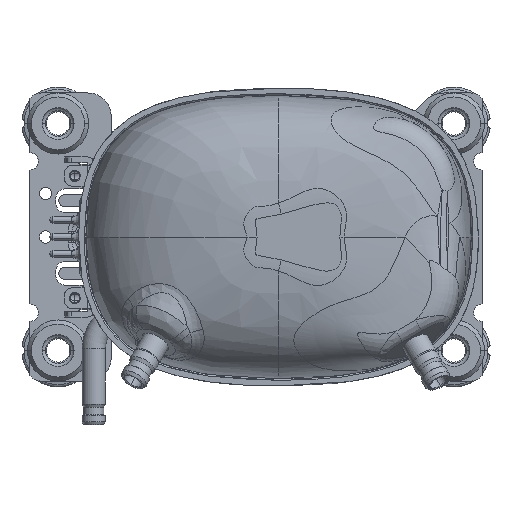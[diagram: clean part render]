
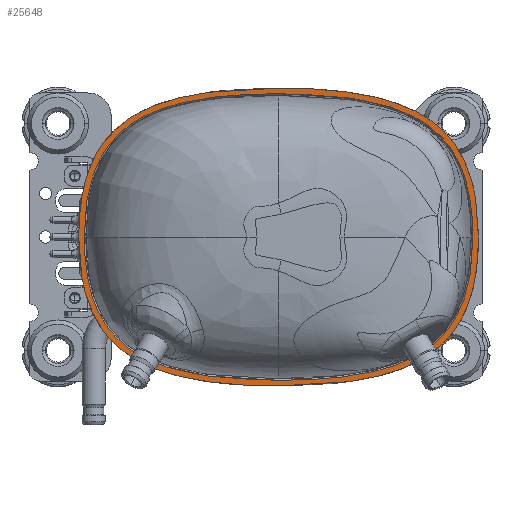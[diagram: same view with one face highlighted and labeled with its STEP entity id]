
A CAD part, front view. The second image highlights one B-rep face of the part: STEP entity #25648.
In plain terms, the highlighted planar face has unit normal (0, -1, 0) as drawn and (0, 1, 0) by its records, which use the part's own axes.
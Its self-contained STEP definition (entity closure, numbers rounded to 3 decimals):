
#6154=CARTESIAN_POINT('',(-68.65,7.5,0.));
#6155=CARTESIAN_POINT('',(-68.65,7.5,6.519));
#6156=CARTESIAN_POINT('',(-67.487,7.5,18.507));
#6157=CARTESIAN_POINT('',(-61.211,7.5,32.736));
#6158=CARTESIAN_POINT('',(-50.191,7.5,42.476));
#6159=CARTESIAN_POINT('',(-35.739,7.5,48.042));
#6160=CARTESIAN_POINT('',(-18.856,7.5,50.7));
#6161=CARTESIAN_POINT('',(-6.424,7.5,51.15));
#6162=CARTESIAN_POINT('',(0.,7.5,51.15));
#6164=CARTESIAN_POINT('',(0.,7.5,-51.15));
#6165=CARTESIAN_POINT('',(-6.424,7.5,-51.15));
#6166=CARTESIAN_POINT('',(-18.856,7.5,-50.7));
#6167=CARTESIAN_POINT('',(-35.739,7.5,-48.042));
#6168=CARTESIAN_POINT('',(-50.191,7.5,-42.476));
#6169=CARTESIAN_POINT('',(-61.211,7.5,-32.736));
#6170=CARTESIAN_POINT('',(-67.487,7.5,-18.507));
#6171=CARTESIAN_POINT('',(-68.65,7.5,-6.519));
#6172=CARTESIAN_POINT('',(-68.65,7.5,0.));
#6174=CARTESIAN_POINT('',(68.65,7.5,0.));
#6175=CARTESIAN_POINT('',(68.65,7.5,-6.519));
#6176=CARTESIAN_POINT('',(67.487,7.5,-18.507));
#6177=CARTESIAN_POINT('',(61.211,7.5,-32.736));
#6178=CARTESIAN_POINT('',(50.191,7.5,-42.476));
#6179=CARTESIAN_POINT('',(35.739,7.5,-48.042));
#6180=CARTESIAN_POINT('',(18.856,7.5,-50.7));
#6181=CARTESIAN_POINT('',(6.424,7.5,-51.15));
#6182=CARTESIAN_POINT('',(0.,7.5,-51.15));
#6184=CARTESIAN_POINT('',(0.,7.5,51.15));
#6185=CARTESIAN_POINT('',(6.424,7.5,51.15));
#6186=CARTESIAN_POINT('',(18.856,7.5,50.7));
#6187=CARTESIAN_POINT('',(35.739,7.5,48.042));
#6188=CARTESIAN_POINT('',(50.191,7.5,42.476));
#6189=CARTESIAN_POINT('',(61.211,7.5,32.736));
#6190=CARTESIAN_POINT('',(67.487,7.5,18.507));
#6191=CARTESIAN_POINT('',(68.65,7.5,6.519));
#6192=CARTESIAN_POINT('',(68.65,7.5,0.));
#6194=CARTESIAN_POINT('',(0.,7.5,
-49.229));
#6195=CARTESIAN_POINT('',(3.943,7.5,-49.229));
#6196=CARTESIAN_POINT('',(11.443,7.5,-49.055));
#6197=CARTESIAN_POINT('',(21.471,7.5,-48.25));
#6198=CARTESIAN_POINT('',(30.365,7.5,-46.873));
#6199=CARTESIAN_POINT('',(38.115,7.5,-44.91));
#6200=CARTESIAN_POINT('',(44.737,7.5,-42.37));
#6201=CARTESIAN_POINT('',(50.185,7.5,-39.333));
#6202=CARTESIAN_POINT('',(54.559,7.5,-35.91));
#6203=CARTESIAN_POINT('',(58.144,7.5,-32.056));
#6204=CARTESIAN_POINT('',(61.124,7.5,-27.569));
#6205=CARTESIAN_POINT('',(63.564,7.5,-22.215));
#6206=CARTESIAN_POINT('',(65.392,7.5,-15.839));
#6207=CARTESIAN_POINT('',(66.489,7.5,-8.447));
#6208=CARTESIAN_POINT('',(66.731,7.5,-2.889));
#6209=CARTESIAN_POINT('',(66.729,7.5,0.));
#6211=CARTESIAN_POINT('',(-66.729,7.5,
0.));
#6212=CARTESIAN_POINT('',(-66.731,7.5,
-2.911));
#6213=CARTESIAN_POINT('',(-66.486,7.5,
-8.485));
#6214=CARTESIAN_POINT('',(-65.382,7.5,
-15.885));
#6215=CARTESIAN_POINT('',(-63.551,7.5,
-22.251));
#6216=CARTESIAN_POINT('',(-61.109,7.5,
-27.596));
#6217=CARTESIAN_POINT('',(-58.126,7.5,
-32.078));
#6218=CARTESIAN_POINT('',(-54.538,7.5,
-35.93));
#6219=CARTESIAN_POINT('',(-50.16,7.5,
-39.35));
#6220=CARTESIAN_POINT('',(-44.705,7.5,
-42.385));
#6221=CARTESIAN_POINT('',(-38.076,7.5,
-44.922));
#6222=CARTESIAN_POINT('',(-30.32,7.5,
-46.882));
#6223=CARTESIAN_POINT('',(-21.418,7.5,
-48.256));
#6224=CARTESIAN_POINT('',(-11.402,7.5,
-49.056));
#6225=CARTESIAN_POINT('',(-3.921,7.5,
-49.229));
#6226=CARTESIAN_POINT('',(0.,7.5,
-49.229));
#6228=CARTESIAN_POINT('',(0.,7.5,
49.229));
#6229=CARTESIAN_POINT('',(-3.943,7.5,49.229));
#6230=CARTESIAN_POINT('',(-11.443,7.5,49.055));
#6231=CARTESIAN_POINT('',(-21.471,7.5,48.25));
#6232=CARTESIAN_POINT('',(-30.365,7.5,46.873));
#6233=CARTESIAN_POINT('',(-38.115,7.5,44.91));
#6234=CARTESIAN_POINT('',(-44.737,7.5,42.37));
#6235=CARTESIAN_POINT('',(-50.185,7.5,39.333));
#6236=CARTESIAN_POINT('',(-54.559,7.5,35.91));
#6237=CARTESIAN_POINT('',(-58.144,7.5,32.056));
#6238=CARTESIAN_POINT('',(-61.124,7.5,27.569));
#6239=CARTESIAN_POINT('',(-63.564,7.5,22.215));
#6240=CARTESIAN_POINT('',(-65.392,7.5,15.839));
#6241=CARTESIAN_POINT('',(-66.489,7.5,8.447));
#6242=CARTESIAN_POINT('',(-66.731,7.5,2.889));
#6243=CARTESIAN_POINT('',(-66.729,7.5,
0.));
#6245=CARTESIAN_POINT('',(66.729,7.5,0.));
#6246=CARTESIAN_POINT('',(66.731,7.5,2.911));
#6247=CARTESIAN_POINT('',(66.486,7.5,8.485));
#6248=CARTESIAN_POINT('',(65.382,7.5,15.885));
#6249=CARTESIAN_POINT('',(63.551,7.5,22.251));
#6250=CARTESIAN_POINT('',(61.109,7.5,27.596));
#6251=CARTESIAN_POINT('',(58.126,7.5,32.078));
#6252=CARTESIAN_POINT('',(54.538,7.5,35.93));
#6253=CARTESIAN_POINT('',(50.16,7.5,39.35));
#6254=CARTESIAN_POINT('',(44.705,7.5,42.385));
#6255=CARTESIAN_POINT('',(38.076,7.5,44.922));
#6256=CARTESIAN_POINT('',(30.32,7.5,46.882));
#6257=CARTESIAN_POINT('',(21.418,7.5,48.256));
#6258=CARTESIAN_POINT('',(11.402,7.5,49.056));
#6259=CARTESIAN_POINT('',(3.921,7.5,49.229));
#6260=CARTESIAN_POINT('',(0.,7.5,
49.229));
#9975=VERTEX_POINT('',#6154);
#9976=VERTEX_POINT('',#6162);
#9977=VERTEX_POINT('',#6192);
#9978=VERTEX_POINT('',#6182);
#10007=VERTEX_POINT('',#6194);
#10008=VERTEX_POINT('',#6209);
#10011=VERTEX_POINT('',#6260);
#10013=VERTEX_POINT('',#6243);
#25628=CARTESIAN_POINT('',(0.,7.5,0.));
#25629=DIRECTION('',(0.,1.,0.));
#25630=DIRECTION('',(-1.,0.,0.));
#25631=AXIS2_PLACEMENT_3D('',#25628,#25629,#25630);
#25632=PLANE('',#25631);
#25633=ORIENTED_EDGE('',*,*,#17061,.F.);
#25634=ORIENTED_EDGE('',*,*,#17538,.F.);
#25635=ORIENTED_EDGE('',*,*,#17560,.F.);
#25636=ORIENTED_EDGE('',*,*,#17033,.F.);
#25637=EDGE_LOOP('',(#25633,#25634,#25635,#25636));
#25638=FACE_OUTER_BOUND('',#25637,.F.);
#25640=ORIENTED_EDGE('',*,*,#25639,.F.);
#25642=ORIENTED_EDGE('',*,*,#25641,.F.);
#25643=ORIENTED_EDGE('',*,*,#25618,.F.);
#25645=ORIENTED_EDGE('',*,*,#25644,.F.);
#25646=EDGE_LOOP('',(#25640,#25642,#25643,#25645));
#25647=FACE_BOUND('',#25646,.F.);
#25648=ADVANCED_FACE('',(#25638,#25647),#25632,.T.);
#6163=B_SPLINE_CURVE_WITH_KNOTS('',3,(#6154,#6155,#6156,#6157,#6158,#6159,#6160,
#6161,#6162),.UNSPECIFIED.,.F.,.F.,(4,1,1,1,1,1,4),(0.,0.167,
0.333,0.5,0.667,0.833,1.),
.UNSPECIFIED.);
#6173=B_SPLINE_CURVE_WITH_KNOTS('',3,(#6164,#6165,#6166,#6167,#6168,#6169,#6170,
#6171,#6172),.UNSPECIFIED.,.F.,.F.,(4,1,1,1,1,1,4),(0.,0.167,
0.333,0.5,0.667,0.833,1.),
.UNSPECIFIED.);
#6183=B_SPLINE_CURVE_WITH_KNOTS('',3,(#6174,#6175,#6176,#6177,#6178,#6179,#6180,
#6181,#6182),.UNSPECIFIED.,.F.,.F.,(4,1,1,1,1,1,4),(0.,0.167,
0.333,0.5,0.667,0.833,1.),
.UNSPECIFIED.);
#6193=B_SPLINE_CURVE_WITH_KNOTS('',3,(#6184,#6185,#6186,#6187,#6188,#6189,#6190,
#6191,#6192),.UNSPECIFIED.,.F.,.F.,(4,1,1,1,1,1,4),(0.,0.167,
0.333,0.5,0.667,0.833,1.),
.UNSPECIFIED.);
#6210=B_SPLINE_CURVE_WITH_KNOTS('',3,(#6194,#6195,#6196,#6197,#6198,#6199,#6200,
#6201,#6202,#6203,#6204,#6205,#6206,#6207,#6208,#6209),.UNSPECIFIED.,.F.,.F.,(4,
1,1,1,1,1,1,1,1,1,1,1,1,4),(0.,0.076,0.153,
0.23,0.308,0.385,0.462,
0.539,0.616,0.693,0.771,
0.848,0.925,1.),.UNSPECIFIED.);
#6227=B_SPLINE_CURVE_WITH_KNOTS('',3,(#6211,#6212,#6213,#6214,#6215,#6216,#6217,
#6218,#6219,#6220,#6221,#6222,#6223,#6224,#6225,#6226),.UNSPECIFIED.,.F.,.F.,(4,
1,1,1,1,1,1,1,1,1,1,1,1,4),(0.,0.076,0.153,
0.23,0.307,0.384,0.461,
0.539,0.616,0.693,0.77,
0.847,0.924,1.),.UNSPECIFIED.);
#6244=B_SPLINE_CURVE_WITH_KNOTS('',3,(#6228,#6229,#6230,#6231,#6232,#6233,#6234,
#6235,#6236,#6237,#6238,#6239,#6240,#6241,#6242,#6243),.UNSPECIFIED.,.F.,.F.,(4,
1,1,1,1,1,1,1,1,1,1,1,1,4),(0.,0.076,0.153,
0.23,0.308,0.385,0.462,
0.539,0.616,0.693,0.771,
0.848,0.925,1.),.UNSPECIFIED.);
#6261=B_SPLINE_CURVE_WITH_KNOTS('',3,(#6245,#6246,#6247,#6248,#6249,#6250,#6251,
#6252,#6253,#6254,#6255,#6256,#6257,#6258,#6259,#6260),.UNSPECIFIED.,.F.,.F.,(4,
1,1,1,1,1,1,1,1,1,1,1,1,4),(0.,0.076,0.153,
0.23,0.307,0.384,0.461,
0.539,0.616,0.693,0.77,
0.847,0.924,1.),.UNSPECIFIED.);
#17033=EDGE_CURVE('',#9976,#9977,#6193,.T.);
#17061=EDGE_CURVE('',#9975,#9976,#6163,.T.);
#17538=EDGE_CURVE('',#9978,#9975,#6173,.T.);
#17560=EDGE_CURVE('',#9977,#9978,#6183,.T.);
#25618=EDGE_CURVE('',#10011,#10013,#6244,.T.);
#25639=EDGE_CURVE('',#10007,#10008,#6210,.T.);
#25641=EDGE_CURVE('',#10013,#10007,#6227,.T.);
#25644=EDGE_CURVE('',#10008,#10011,#6261,.T.);
